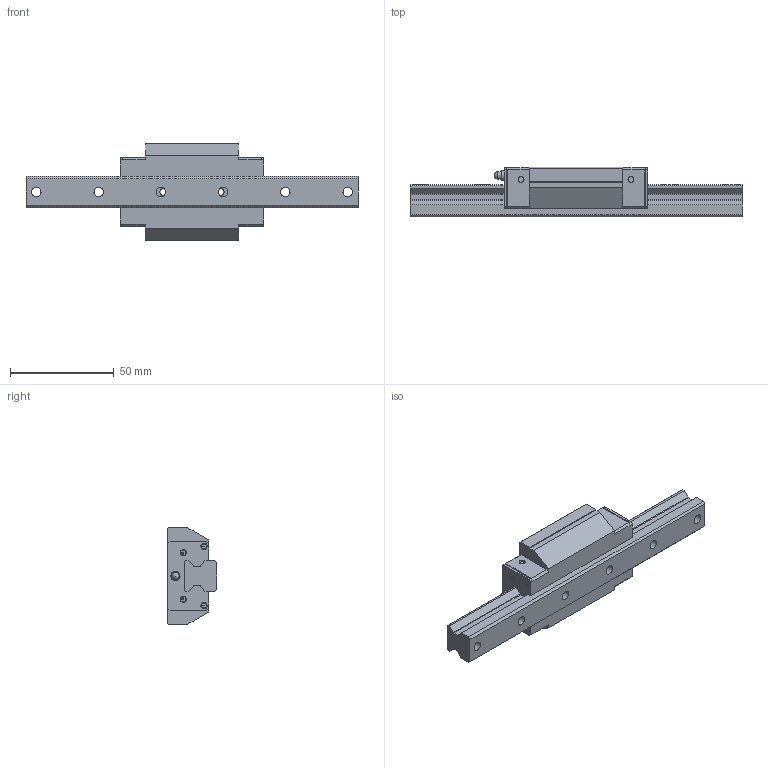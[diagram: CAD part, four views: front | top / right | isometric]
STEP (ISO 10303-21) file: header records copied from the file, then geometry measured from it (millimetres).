
FILE_DESCRIPTION(/* description */ ('STEP AP203'),/* implementation_level */ '2;1');
FILE_NAME(/* name */ 'SRG15XA1SS-160LP_G20_0_PB107_45-4_0_0_0_1',/* time_stamp */ '2024-05-23T09:35:37+02:00',/* author */ ('License CC BY-ND 4.0'),/* organization */ ('CADENAS'),/* preprocessor_version */ 'ST-DEVELOPER v19.3',/* originating_system */ 'PARTsolutions',/* authorisation */ ' ');
FILE_SCHEMA (('CONFIG_CONTROL_DESIGN'));
Length unit declared in the file: millimetre
Products named in the file (4): SRG15XA1SS-160LP_G20_0_PB107_45-4_0_0_0_1; SRG15XA1605 Track; SRG15XASSPB1071 Slide15-25; SRG-PB107_grease_nipple_joint
Assembly tree (3 placements, depth 2):
  SRG15XA1SS-160LP_G20_0_PB107_45-4_0_0_0_1
    SRG15XA1605 Track
    SRG15XASSPB1071 Slide15-25
    SRG-PB107_grease_nipple_joint
Bounding box: 160 x 24 x 47 mm (x, y, z)
Volume: 72621.5 mm3; surface area: 24695.6 mm2
Topology: 3 solids, 3 shells, 285 faces, 721 edges, 473 vertices
Faces by surface type: plane 227, cylinder 37, cone 12, torus 8, sphere 1
Full cylindrical faces by diameter (mm): 2.9 x4, 3 x3, 3.5 x1, 4.134 x6, 4.5 x7, 7.5 x6, 9.2 x2
Entity records: 8285 total; most frequent: CARTESIAN_POINT 1423, DIRECTION 1340, ORIENTED_EDGE 1328, EDGE_CURVE 664, LINE 566, VECTOR 566, VERTEX_POINT 470, AXIS2_PLACEMENT_3D 387
